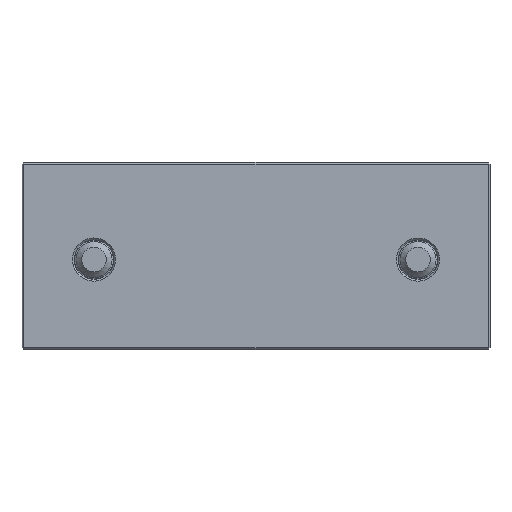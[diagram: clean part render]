
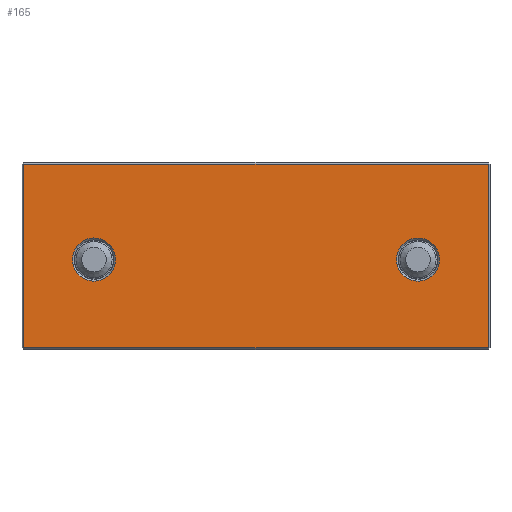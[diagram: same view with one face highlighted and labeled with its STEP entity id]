
A CAD part, front view. The second image highlights one B-rep face of the part: STEP entity #165.
In plain terms, the highlighted planar face has unit normal (0, -1, 0).
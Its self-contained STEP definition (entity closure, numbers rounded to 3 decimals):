
#165=ADVANCED_FACE('',(#815,#817,#819),#821,.T.);
#815=FACE_BOUND('',#816,.T.);
#816=EDGE_LOOP('',(#1295,#1296,#1297,#1298));
#817=FACE_BOUND('',#818,.T.);
#818=EDGE_LOOP('',(#1299));
#819=FACE_BOUND('',#820,.T.);
#820=EDGE_LOOP('',(#1300));
#821=PLANE('',#822);
#822=AXIS2_PLACEMENT_3D('',#823,#824,#825);
#823=CARTESIAN_POINT('',(-65.,-7.,27.));
#824=DIRECTION('',(0.,-1.,0.));
#825=DIRECTION('',(0.,0.,-1.));
#1295=ORIENTED_EDGE('',*,*,#1548,.F.);
#1296=ORIENTED_EDGE('',*,*,#1549,.F.);
#1297=ORIENTED_EDGE('',*,*,#1550,.T.);
#1298=ORIENTED_EDGE('',*,*,#1551,.T.);
#1299=ORIENTED_EDGE('',*,*,#1552,.T.);
#1300=ORIENTED_EDGE('',*,*,#1535,.T.);
#1535=EDGE_CURVE('',#1678,#1678,#1679,.T.);
#1548=EDGE_CURVE('',#1704,#1705,#1706,.T.);
#1549=EDGE_CURVE('',#1707,#1704,#1708,.T.);
#1550=EDGE_CURVE('',#1707,#1709,#1710,.T.);
#1551=EDGE_CURVE('',#1709,#1705,#1711,.T.);
#1552=EDGE_CURVE('',#1712,#1712,#1713,.T.);
#1678=VERTEX_POINT('',#1935);
#1679=CIRCLE('',#1936,6.);
#1704=VERTEX_POINT('',#1990);
#1705=VERTEX_POINT('',#1991);
#1706=LINE('',#1992,#1993);
#1707=VERTEX_POINT('',#1995);
#1708=LINE('',#1996,#1997);
#1709=VERTEX_POINT('',#1999);
#1710=LINE('',#2000,#2001);
#1711=LINE('',#2003,#2004);
#1712=VERTEX_POINT('',#2006);
#1713=CIRCLE('',#2007,6.);
#1935=CARTESIAN_POINT('',(51.,-7.,0.));
#1936=AXIS2_PLACEMENT_3D('',#1937,#1938,#1939);
#1937=CARTESIAN_POINT('',(45.,-7.,0.));
#1938=DIRECTION('',(0.,1.,0.));
#1939=DIRECTION('',(1.,0.,0.));
#1990=CARTESIAN_POINT('',(64.5,-7.,26.5));
#1991=CARTESIAN_POINT('',(64.5,-7.,-24.5));
#1992=CARTESIAN_POINT('',(64.5,-7.,26.5));
#1993=VECTOR('',#1994,1.);
#1994=DIRECTION('',(0.,0.,-1.));
#1995=CARTESIAN_POINT('',(-64.5,-7.,26.5));
#1996=CARTESIAN_POINT('',(-64.5,-7.,26.5));
#1997=VECTOR('',#1998,1.);
#1998=DIRECTION('',(1.,0.,0.));
#1999=CARTESIAN_POINT('',(-64.5,-7.,-24.5));
#2000=CARTESIAN_POINT('',(-64.5,-7.,26.5));
#2001=VECTOR('',#2002,1.);
#2002=DIRECTION('',(0.,0.,-1.));
#2003=CARTESIAN_POINT('',(-64.5,-7.,-24.5));
#2004=VECTOR('',#2005,1.);
#2005=DIRECTION('',(1.,0.,0.));
#2006=CARTESIAN_POINT('',(-39.,-7.,0.));
#2007=AXIS2_PLACEMENT_3D('',#2008,#2009,#2010);
#2008=CARTESIAN_POINT('',(-45.,-7.,0.));
#2009=DIRECTION('',(0.,1.,0.));
#2010=DIRECTION('',(1.,0.,0.));
